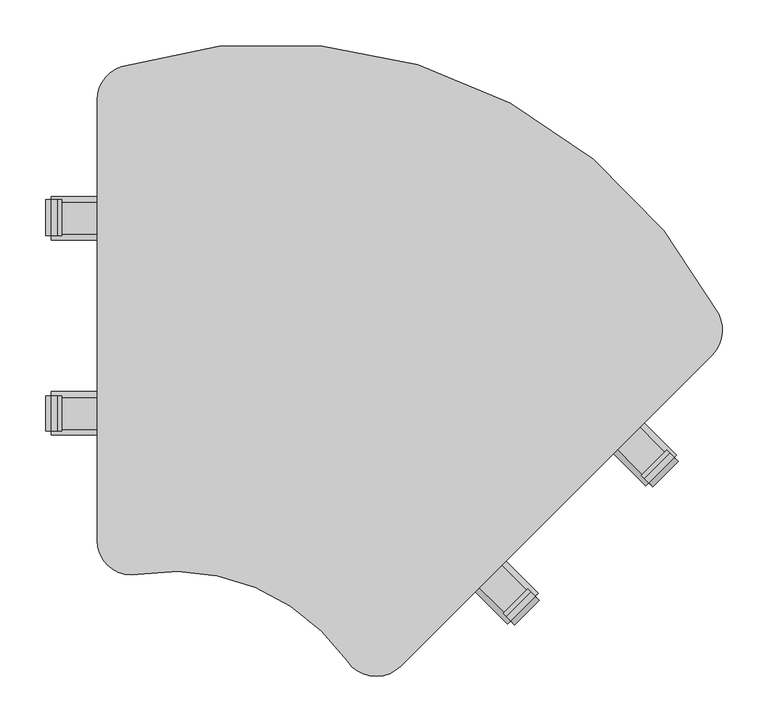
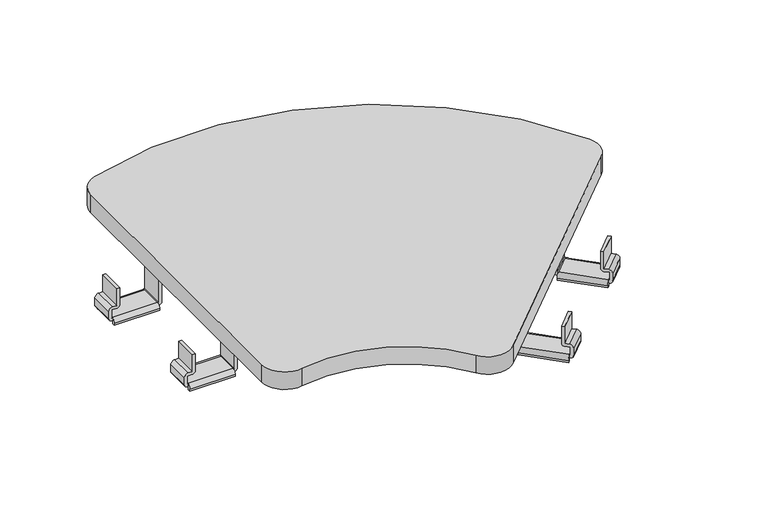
"""IFC4 building model written with IfcOpenShell, lengths in millimetres: furniture geometry, Krug-Solis-Connecting-45Deg_Corner : SOL4-LKCRR45."""

from ifc_helpers import new_model, si_unit, point, frame, frame_2d, origin, place, context, project, spatial, polyline, circle_curve, trimmed, segment, composite_curve, outline, extrude, source, transform, mapped, element, save


def furniture_9b92ef53(model_context):
    return source(origin(), model_context, "Body", "SweptSolid", [
        extrude(outline(composite_curve([segment(trimmed(circle_curve(frame_2d((-290.2546124, 388.5734541)), 38.1), [point((-328.3546124, 388.5734541))], [point((-301.7659473, 424.8928589))], False, "CARTESIAN"), True, "CONTINUOUS"), segment(trimmed(circle_curve(frame_2d((-135.7632704, -98.8620737)), 549.432542), [point((-301.7659473, 424.8928589))], [point((352.069177, 153.9137586))], False, "CARTESIAN"), True, "CONTINUOUS"), segment(trimmed(circle_curve(frame_2d((318.2407908, 136.3852024)), 38.1), [point((352.069177, 153.9137586))], [point((345.1815591, 109.444434))], False, "CARTESIAN"), True, "CONTINUOUS"), segment(polyline([(345.1815591, 109.444434), (4.0426268, -231.6944983)]), True, "CONTINUOUS"), segment(trimmed(circle_curve(frame_2d((-22.8981415, -204.7537299)), 38.1), [point((4.0426268, -231.6944983))], [point((-54.1069868, -226.6082026))], False, "CARTESIAN"), True, "CONTINUOUS"), segment(trimmed(circle_curve(frame_2d((-243.7377138, -359.4000283)), 231.5026599), [point((-54.1069868, -226.6082026))], [point((-283.6808871, -131.3692749))], True, "CARTESIAN"), True, "CONTINUOUS"), segment(trimmed(circle_curve(frame_2d((-290.2546124, -93.8406707)), 38.1), [point((-283.6808871, -131.3692749))], [point((-328.3546124, -93.8406707))], False, "CARTESIAN"), True, "CONTINUOUS"), segment(polyline([(-328.3546124, -93.8406707), (-328.3546124, 388.5734541)]), True, "CONTINUOUS")], self_intersect=False)), frame((0.0, 0.0, 386.08), z_axis=(0.0, 0.0, 1.0), x_axis=(1.0, 0.0, 0.0)), (0.0, 0.0, 1.0), 30.48),
        extrude(outline(composite_curve([segment(polyline([(-29.2374959, 0.0), (0.0, 0.0), (0.0, -4.7625003), (-29.2374956, -4.7625003)]), True, "CONTINUOUS"), segment(trimmed(circle_curve(frame_2d((-29.2374956, 0.0)), 4.7625003), [point((-29.2374956, -4.7625003))], [point((-33.9999959, 0.0))], False, "CARTESIAN"), True, "CONTINUOUS"), segment(polyline([(-33.9999959, 0.0), (-33.9999959, 8.2375), (-47.9999771, 8.2375), (-47.9999771, 6.7375008), (-52.5879238, 6.7375008), (-52.5879238, 8.2375)]), True, "CONTINUOUS"), segment(trimmed(circle_curve(frame_2d((-47.8254235, 8.2375)), 4.7625003), [point((-52.5879238, 8.2375))], [point((-47.8254235, 13.0000003))], False, "CARTESIAN"), True, "CONTINUOUS"), segment(polyline([(-47.8254235, 13.0000003), (-35.499977, 13.0000003)]), True, "CONTINUOUS"), segment(trimmed(circle_curve(frame_2d((-35.499977, 6.7375192)), 6.2624811), [point((-35.499977, 13.0000003))], [point((-29.2374959, 6.7375192))], False, "CARTESIAN"), True, "CONTINUOUS"), segment(polyline([(-29.2374959, 6.7375192), (-29.2374959, 0.0)]), True, "CONTINUOUS")], self_intersect=False)), frame((270.9487709, -26.0703928, 359.808594), z_axis=(0.7071886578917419, 0.7070248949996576, 0.0), x_axis=(0.0, 0.0, 1.0)), (0.0, 0.0, 1.0), 39.3474212),
        extrude(outline(composite_curve([segment(trimmed(circle_curve(frame_2d((-47.8254315, -68.7624993)), 4.7624923), [point((-47.8254315, -73.5249916))], [point((-52.5879238, -68.7624993))], False, "CARTESIAN"), True, "CONTINUOUS"), segment(polyline([(-52.5879238, -68.7624993), (-52.5879238, -67.2625006), (-47.9999771, -67.2625006), (-47.9999771, -68.7624993), (26.271406, -68.7624993), (26.271406, -112.3450005), (22.1575898, -112.3450005), (22.1575898, -73.5249916), (-47.8254315, -73.5249916)]), True, "CONTINUOUS")], self_intersect=False)), frame((270.9487709, -26.0703928, 359.808594), z_axis=(0.7071886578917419, 0.7070248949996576, 0.0), x_axis=(0.0, 0.0, 1.0)), (0.0, 0.0, 1.0), 39.3474212),
        extrude(outline(composite_curve([segment(polyline([(5.4120607, 0.0), (5.4120607, 38.0999996), (0.0, 38.0999996), (0.0, 42.8625002), (3.6500074, 42.8625002)]), True, "CONTINUOUS"), segment(trimmed(circle_curve(frame_2d((3.6500074, 36.5125002)), 6.35), [point((3.6500074, 42.8625002))], [point((10.0000074, 36.5125002))], False, "CARTESIAN"), True, "CONTINUOUS"), segment(polyline([(10.0000074, 36.5125002), (10.0000074, 1.5875003)]), True, "CONTINUOUS"), segment(trimmed(circle_curve(frame_2d((3.6500074, 1.5875003)), 6.35), [point((10.0000074, 1.5875003))], [point((3.6500074, -4.7624998))], False, "CARTESIAN"), True, "CONTINUOUS"), segment(polyline([(3.6500074, -4.7624998), (0.0, -4.7624998), (0.0, 0.0), (5.4120607, 0.0)]), True, "CONTINUOUS")], self_intersect=False)), frame((124.3739755, -182.1384079, 317.4177981), z_axis=(-0.707024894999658, 0.7071886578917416, 0.0), x_axis=(0.0, 0.0, 1.0)), (0.0, 0.0, 1.0), 74.0000014),
        extrude(outline(composite_curve([segment(polyline([(-10.1971279, 214.0000051), (-10.1971279, 252.1000046), (-15.6091886, 252.1000046), (-15.6091886, 256.8625053), (-11.9591812, 256.8625053)]), True, "CONTINUOUS"), segment(trimmed(circle_curve(frame_2d((-11.9591812, 250.5125053)), 6.35), [point((-11.9591812, 256.8625053))], [point((-5.6091812, 250.5125053))], False, "CARTESIAN"), True, "CONTINUOUS"), segment(polyline([(-5.6091812, 250.5125053), (-5.6091812, 215.5875053)]), True, "CONTINUOUS"), segment(trimmed(circle_curve(frame_2d((-11.9591812, 215.5875053)), 6.35), [point((-5.6091812, 215.5875053))], [point((-11.9591812, 209.2375053))], False, "CARTESIAN"), True, "CONTINUOUS"), segment(polyline([(-11.9591812, 209.2375053), (-15.6091886, 209.2375053), (-15.6091886, 214.0000051), (-10.1971279, 214.0000051)]), True, "CONTINUOUS")], self_intersect=False)), frame((124.3739755, -182.1384079, 317.4177981), z_axis=(-0.707024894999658, 0.7071886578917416, 0.0), x_axis=(0.0, 0.0, 1.0)), (0.0, 0.0, 1.0), 74.0000014),
        extrude(outline(composite_curve([segment(polyline([(-29.2374959, 0.0), (0.0, 0.0), (0.0, -4.7625003), (-29.2374956, -4.7625003)]), True, "CONTINUOUS"), segment(trimmed(circle_curve(frame_2d((-29.2374956, 0.0)), 4.7625003), [point((-29.2374956, -4.7625003))], [point((-33.9999959, 0.0))], False, "CARTESIAN"), True, "CONTINUOUS"), segment(polyline([(-33.9999959, 0.0), (-33.9999959, 8.2375), (-47.9999771, 8.2375), (-47.9999771, 6.7375008), (-52.5879238, 6.7375008), (-52.5879238, 8.2375)]), True, "CONTINUOUS"), segment(trimmed(circle_curve(frame_2d((-47.8254235, 8.2375)), 4.7625003), [point((-52.5879238, 8.2375))], [point((-47.8254235, 13.0000003))], False, "CARTESIAN"), True, "CONTINUOUS"), segment(polyline([(-47.8254235, 13.0000003), (-35.499977, 13.0000003)]), True, "CONTINUOUS"), segment(trimmed(circle_curve(frame_2d((-35.499977, 6.7375192)), 6.2624811), [point((-35.499977, 13.0000003))], [point((-29.2374959, 6.7375192))], False, "CARTESIAN"), True, "CONTINUOUS"), segment(polyline([(-29.2374959, 6.7375192), (-29.2374959, 0.0)]), True, "CONTINUOUS")], self_intersect=False)), frame((119.6103945, -177.3737239, 375.4177826), z_axis=(0.7071886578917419, 0.7070248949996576, 0.0), x_axis=(0.0, 0.0, 1.0)), (0.0, 0.0, 1.0), 38.0999998),
        extrude(outline(composite_curve([segment(trimmed(circle_curve(frame_2d((-47.8254315, -68.7624993)), 4.7624923), [point((-47.8254315, -73.5249917))], [point((-52.5879238, -68.7624993))], False, "CARTESIAN"), True, "CONTINUOUS"), segment(polyline([(-52.5879238, -68.7624993), (-52.5879238, -67.2625006), (-47.9999771, -67.2625006), (-47.9999771, -68.7624993), (10.6622174, -68.7624993), (10.6622174, -112.3450005), (6.5484012, -112.3450005), (6.5484012, -73.5249917), (-47.8254315, -73.5249917)]), True, "CONTINUOUS")], self_intersect=False)), frame((119.6103945, -177.3737239, 375.4177826), z_axis=(0.7071886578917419, 0.7070248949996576, 0.0), x_axis=(0.0, 0.0, 1.0)), (0.0, 0.0, 1.0), 38.0999998),
        extrude(outline(composite_curve([segment(polyline([(330.5710981, -371.6990738), (330.5710981, -378.4365929)]), True, "CONTINUOUS"), segment(trimmed(circle_curve(frame_2d((324.308617, -378.4365929)), 6.2624811), [point((330.5710981, -378.4365929))], [point((324.308617, -384.699074))], False, "CARTESIAN"), True, "CONTINUOUS"), segment(polyline([(324.308617, -384.699074), (311.9831705, -384.699074)]), True, "CONTINUOUS"), segment(trimmed(circle_curve(frame_2d((311.9831705, -379.9365737)), 4.7625003), [point((311.9831705, -384.699074))], [point((307.2206702, -379.9365737))], False, "CARTESIAN"), True, "CONTINUOUS"), segment(polyline([(307.2206702, -379.9365737), (307.2206702, -378.4365746), (311.8086169, -378.4365746), (311.8086169, -379.9365737), (325.8085981, -379.9365737), (325.8085981, -371.6990738)]), True, "CONTINUOUS"), segment(trimmed(circle_curve(frame_2d((330.5710984, -371.6990738)), 4.7625003), [point((325.8085981, -371.6990738))], [point((330.5710984, -366.9365734))], False, "CARTESIAN"), True, "CONTINUOUS"), segment(polyline([(330.5710984, -366.9365734), (359.808594, -366.9365734), (359.808594, -371.6990738), (330.5710981, -371.6990738)]), True, "CONTINUOUS")], self_intersect=False)), frame((0.0, 240.1666539, 0.0), z_axis=(0.0, 1.0, 0.0), x_axis=(0.0, 0.0, 1.0)), (0.0, 0.0, 1.0), 39.3474212),
        extrude(outline(composite_curve([segment(polyline([(311.9831625, -298.1740821), (381.9661838, -298.1740821), (381.9661838, -259.3540732), (386.08, -259.3540732), (386.08, -302.9365744), (311.8086169, -302.9365744), (311.8086169, -304.4365732), (307.2206702, -304.4365732), (307.2206702, -302.9365744)]), True, "CONTINUOUS"), segment(trimmed(circle_curve(frame_2d((311.9831625, -302.9365744)), 4.7624923), [point((307.2206702, -302.9365744))], [point((311.9831625, -298.1740821))], False, "CARTESIAN"), True, "CONTINUOUS")], self_intersect=False)), frame((0.0, 240.1666539, 0.0), z_axis=(0.0, 1.0, 0.0), x_axis=(0.0, 0.0, 1.0)), (0.0, 0.0, 1.0), 39.3474212),
        extrude(outline(composite_curve([segment(polyline([(26.1666492, 322.8298588), (26.1666492, 317.4177981), (21.4041494, 317.4177981), (21.4041494, 321.0678055)]), True, "CONTINUOUS"), segment(trimmed(circle_curve(frame_2d((27.7541494, 321.0678055)), 6.35), [point((21.4041494, 321.0678055))], [point((27.7541494, 327.4178055))], False, "CARTESIAN"), True, "CONTINUOUS"), segment(polyline([(27.7541494, 327.4178055), (62.6791494, 327.4178055)]), True, "CONTINUOUS"), segment(trimmed(circle_curve(frame_2d((62.6791494, 321.0678055)), 6.35), [point((62.6791494, 327.4178055))], [point((69.0291494, 321.0678055))], False, "CARTESIAN"), True, "CONTINUOUS"), segment(polyline([(69.0291494, 321.0678055), (69.0291494, 317.4177981), (64.2666487, 317.4177981), (64.2666487, 322.8298588), (26.1666492, 322.8298588)]), True, "CONTINUOUS")], self_intersect=False)), frame((-378.4365746, 0.0, 0.0), z_axis=(1.0, 0.0, 0.0), x_axis=(0.0, 1.0, 0.0)), (0.0, 0.0, 1.0), 74.0000014),
        extrude(outline(composite_curve([segment(polyline([(240.1666542, 307.2206702), (240.1666542, 301.8086095), (235.4041544, 301.8086095), (235.4041544, 305.4586169)]), True, "CONTINUOUS"), segment(trimmed(circle_curve(frame_2d((241.7541544, 305.4586169)), 6.35), [point((235.4041544, 305.4586169))], [point((241.7541544, 311.8086169))], False, "CARTESIAN"), True, "CONTINUOUS"), segment(polyline([(241.7541544, 311.8086169), (276.6791544, 311.8086169)]), True, "CONTINUOUS"), segment(trimmed(circle_curve(frame_2d((276.6791544, 305.4586169)), 6.35), [point((276.6791544, 311.8086169))], [point((283.0291544, 305.4586169))], False, "CARTESIAN"), True, "CONTINUOUS"), segment(polyline([(283.0291544, 305.4586169), (283.0291544, 301.8086095), (278.2666538, 301.8086095), (278.2666538, 307.2206702), (240.1666542, 307.2206702)]), True, "CONTINUOUS")], self_intersect=False)), frame((-378.4365746, 0.0, 0.0), z_axis=(1.0, 0.0, 0.0), x_axis=(0.0, 1.0, 0.0)), (0.0, 0.0, 1.0), 74.0000014),
        extrude(outline(composite_curve([segment(polyline([(346.1802867, -371.6990738), (346.1802867, -378.4365929)]), True, "CONTINUOUS"), segment(trimmed(circle_curve(frame_2d((339.9178056, -378.4365929)), 6.2624811), [point((346.1802867, -378.4365929))], [point((339.9178056, -384.699074))], False, "CARTESIAN"), True, "CONTINUOUS"), segment(polyline([(339.9178056, -384.699074), (327.5923591, -384.699074)]), True, "CONTINUOUS"), segment(trimmed(circle_curve(frame_2d((327.5923591, -379.9365737)), 4.7625003), [point((327.5923591, -384.699074))], [point((322.8298588, -379.9365737))], False, "CARTESIAN"), True, "CONTINUOUS"), segment(polyline([(322.8298588, -379.9365737), (322.8298588, -378.4365746), (327.4178055, -378.4365746), (327.4178055, -379.9365737), (341.4177867, -379.9365737), (341.4177867, -371.6990738)]), True, "CONTINUOUS"), segment(trimmed(circle_curve(frame_2d((346.180287, -371.6990738)), 4.7625003), [point((341.4177867, -371.6990738))], [point((346.180287, -366.9365734))], False, "CARTESIAN"), True, "CONTINUOUS"), segment(polyline([(346.180287, -366.9365734), (375.4177826, -366.9365734), (375.4177826, -371.6990738), (346.1802867, -371.6990738)]), True, "CONTINUOUS")], self_intersect=False)), frame((0.0, 26.1666489, 0.0), z_axis=(0.0, 1.0, 0.0), x_axis=(0.0, 0.0, 1.0)), (0.0, 0.0, 1.0), 38.0999998),
        extrude(outline(composite_curve([segment(polyline([(327.5923511, -298.1740821), (381.9661838, -298.1740821), (381.9661838, -259.3540732), (386.08, -259.3540732), (386.08, -302.9365744), (327.4178055, -302.9365744), (327.4178055, -304.4365732), (322.8298588, -304.4365732), (322.8298588, -302.9365744)]), True, "CONTINUOUS"), segment(trimmed(circle_curve(frame_2d((327.5923511, -302.9365744)), 4.7624923), [point((322.8298588, -302.9365744))], [point((327.5923511, -298.1740821))], False, "CARTESIAN"), True, "CONTINUOUS")], self_intersect=False)), frame((0.0, 26.1666489, 0.0), z_axis=(0.0, 1.0, 0.0), x_axis=(0.0, 0.0, 1.0)), (0.0, 0.0, 1.0), 38.0999998),
    ])


if __name__ == "__main__":
    model = new_model("IFC4")
    model_context = context("Model", 3, world=origin())
    ifc_project = project(units=[si_unit("LENGTHUNIT", "METRE", prefix="MILLI")], contexts=[model_context])
    site = spatial("IfcSite", under=ifc_project)
    building = spatial("IfcBuilding", under=site)
    placement = place(None, origin())
    furniture_shape = furniture_9b92ef53(model_context)
    element("IfcFurniture", 1, ObjectType="Krug-Solis-Connecting-45Deg_Corner : SOL4-LKCRR45", at=placement, inside=building, context=model_context, shape_type="MappedRepresentation", body=[
        mapped(furniture_shape, transform((0.0, 0.0, 0.0), x_axis=(1.0, 0.0, 0.0), y_axis=(0.0, 1.0, 0.0), z_axis=(0.0, 0.0, 1.0))),
    ])
    save(model, "model.ifc")
